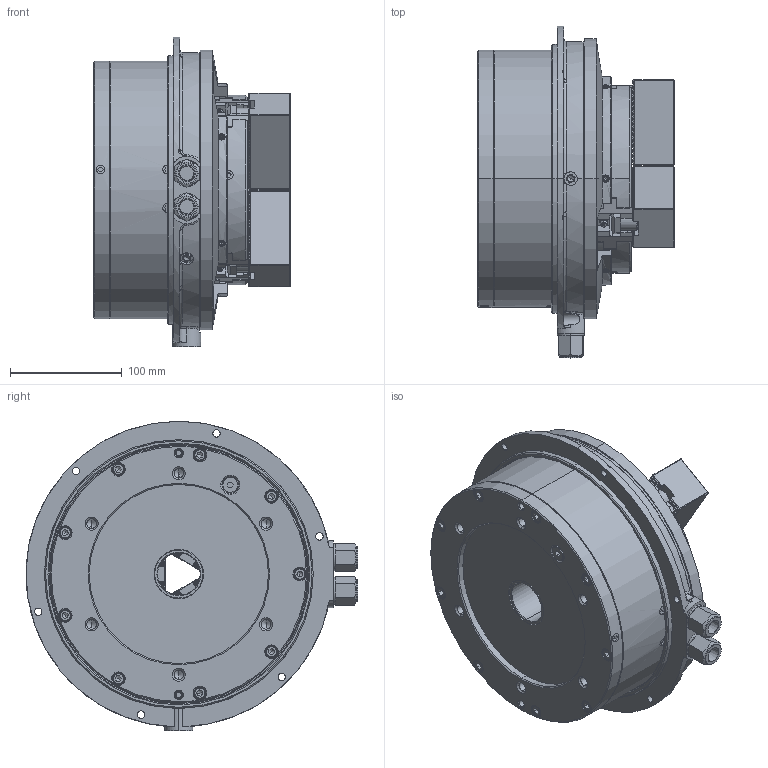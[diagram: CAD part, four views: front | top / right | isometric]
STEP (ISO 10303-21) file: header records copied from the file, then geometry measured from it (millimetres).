
FILE_DESCRIPTION (( 'STEP AP214' ), '1' );
FILE_NAME ('DEV-UVE160K-OC.STEP', '2024-10-02T07:26:57', ( '' ), ( '' ), 'SwSTEP 2.0', 'SolidWorks 2022', '' );
FILE_SCHEMA (( 'AUTOMOTIVE_DESIGN' ));
Length unit declared in the file: millimetre
Products named in the file (6): Copy of 61P401345^DEV-UVE160K-クミタテ; Copy of 61P853952^DEV-UVE160K-クミタテ; Copy of 0693000003^DEV-UVE160K-クミタテ; DEV-UVE160K-OC; Copy of 0030112030^DEV-UVE160K-クミタテ; Part2^DEV-UVE160K-クミタテ
Assembly tree (18 placements, depth 2):
  DEV-UVE160K-OC
    Copy of 61P853952^DEV-UVE160K-クミタテ  x3
    Copy of 61P401345^DEV-UVE160K-クミタテ  x6
    Copy of 0030112030^DEV-UVE160K-クミタテ  x6
    Copy of 0693000003^DEV-UVE160K-クミタテ  x2
    Part2^DEV-UVE160K-クミタテ
Bounding box: 175.45 x 296.49 x 276.5 mm (x, y, z)
Volume: 5488569.2 mm3; surface area: 417122.5 mm2
Topology: 18 solids, 47 shells, 4915 faces, 13639 edges, 8893 vertices
Faces by surface type: plane 2826, cylinder 1273, cone 473, bspline 272, torus 51, sphere 20
Entity records: 128814 total; most frequent: CARTESIAN_POINT 40414, ORIENTED_EDGE 20004, DIRECTION 16035, EDGE_CURVE 10002, VERTEX_POINT 6550, LINE 6535, VECTOR 6535, AXIS2_PLACEMENT_3D 4750
